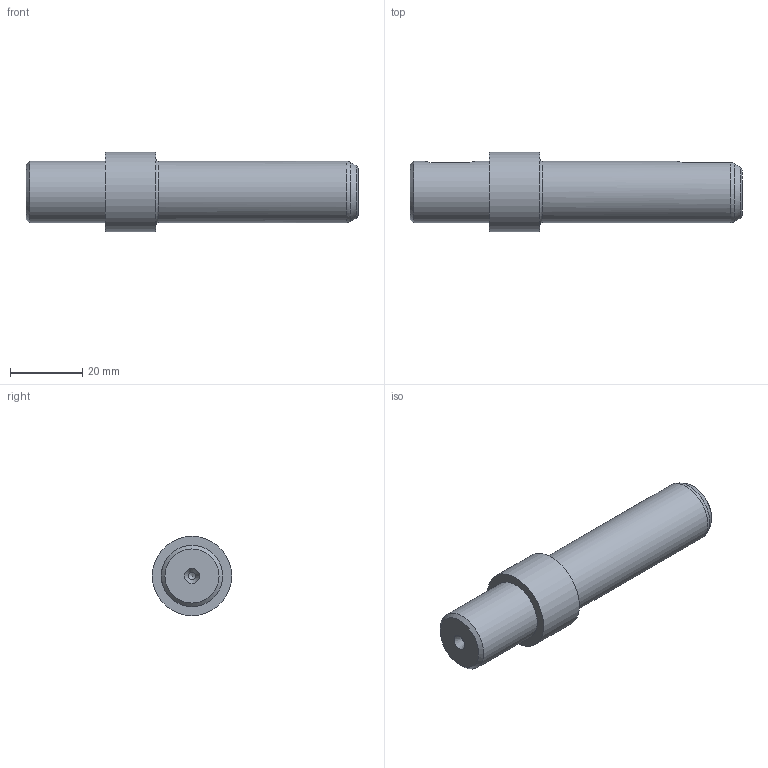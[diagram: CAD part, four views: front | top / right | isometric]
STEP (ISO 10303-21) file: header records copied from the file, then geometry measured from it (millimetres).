
FILE_DESCRIPTION(/* description */ (''),/* implementation_level */ '2;1');
FILE_NAME(/* name */ '',/* time_stamp */ '2025-04-29T13:40:40+09:00',/* author */ ('jhkim'),/* organization */ (''),/* preprocessor_version */ 'ST-DEVELOPER v20.1',/* originating_system */ 'Autodesk Inventor 2026',/* authorisation */ '');
FILE_SCHEMA (('AUTOMOTIVE_DESIGN { 1 0 10303 214 3 1 1 }'));
Length unit declared in the file: millimetre
Products named in the file (1): 메인 축
Bounding box: 92 x 22 x 22 mm (x, y, z)
Volume: 22426.2 mm3; surface area: 6012.9 mm2
Topology: 1 solids, 1 shells, 27 faces, 64 edges, 42 vertices
Faces by surface type: plane 10, cylinder 8, cone 6, torus 3
Full cylindrical faces by diameter (mm): 2 x2, 17 x2, 22 x1
Entity records: 874 total; most frequent: CARTESIAN_POINT 214, DIRECTION 129, ORIENTED_EDGE 124, EDGE_CURVE 62, AXIS2_PLACEMENT_3D 51, VERTEX_POINT 42, EDGE_LOOP 32, FACE_OUTER_BOUND 27
